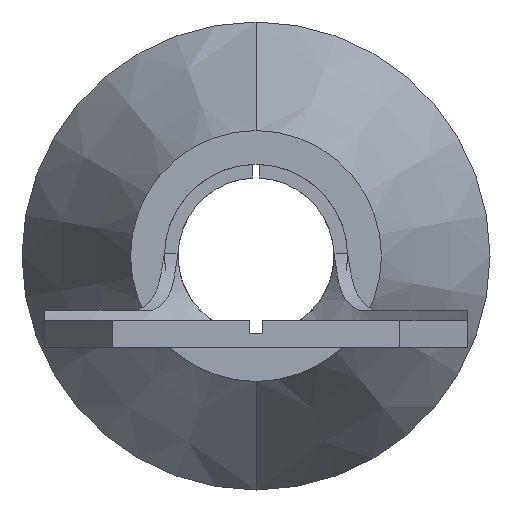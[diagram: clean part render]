
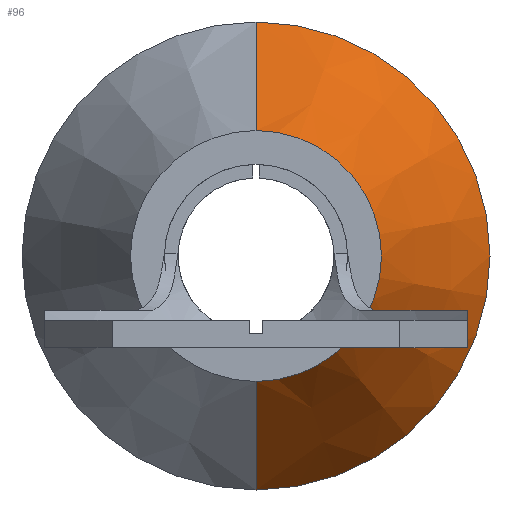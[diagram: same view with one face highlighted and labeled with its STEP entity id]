
A CAD part, front view. The second image highlights one B-rep face of the part: STEP entity #96.
In plain terms, the highlighted conical face has half-angle 27.3 degrees and reference radius 1.85 mm.
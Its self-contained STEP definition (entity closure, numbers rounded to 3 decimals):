
#31 = CARTESIAN_POINT ( 'NONE',  ( 0., 7.3, -3.45 ) ) ;
#91 = DIRECTION ( 'NONE',  ( 0., 1., 0. ) ) ;
#96 = ADVANCED_FACE ( 'NONE', ( #196 ), #1257, .T. ) ;
#101 = EDGE_CURVE ( 'NONE', #1501, #167, #1623, .T. ) ;
#167 = VERTEX_POINT ( 'NONE', #1622 ) ;
#185 = DIRECTION ( 'NONE',  ( 0., -1., 0. ) ) ;
#196 = FACE_OUTER_BOUND ( 'NONE', #1090, .T. ) ;
#283 = VERTEX_POINT ( 'NONE', #608 ) ;
#323 = DIRECTION ( 'NONE',  ( 0., -1., 0. ) ) ;
#361 = CARTESIAN_POINT ( 'NONE',  ( 0., 4.2, -1.85 ) ) ;
#387 = CARTESIAN_POINT ( 'NONE',  ( 0., 4.2, 0. ) ) ;
#464 = EDGE_CURVE ( 'NONE', #283, #1501, #510, .T. ) ;
#510 = CIRCLE ( 'NONE', #1344, 1.85 ) ;
#530 = DIRECTION ( 'NONE',  ( 0., 0., 1. ) ) ;
#583 = ORIENTED_EDGE ( 'NONE', *, *, #101, .F. ) ;
#587 = VECTOR ( 'NONE', #1062, 1000. ) ;
#608 = CARTESIAN_POINT ( 'NONE',  ( 0., 4.2, -1.85 ) ) ;
#633 = CARTESIAN_POINT ( 'NONE',  ( 0., 4.2, 0. ) ) ;
#680 = ORIENTED_EDGE ( 'NONE', *, *, #706, .T. ) ;
#706 = EDGE_CURVE ( 'NONE', #1708, #167, #855, .T. ) ;
#731 = AXIS2_PLACEMENT_3D ( 'NONE', #387, #91, #530 ) ;
#855 = CIRCLE ( 'NONE', #1479, 3.45 ) ;
#1027 = CARTESIAN_POINT ( 'NONE',  ( 0., 7.3, 0. ) ) ;
#1062 = DIRECTION ( 'NONE',  ( 0., 0.889, -0.459 ) ) ;
#1079 = DIRECTION ( 'NONE',  ( 0., 0.889, 0.459 ) ) ;
#1090 = EDGE_LOOP ( 'NONE', ( #1701, #1441, #680, #583 ) ) ;
#1157 = DIRECTION ( 'NONE',  ( 0., 0., -1. ) ) ;
#1257 = CONICAL_SURFACE ( 'NONE', #731, 1.85, 0.476 ) ;
#1271 = VECTOR ( 'NONE', #1079, 1000. ) ;
#1344 = AXIS2_PLACEMENT_3D ( 'NONE', #633, #323, #1435 ) ;
#1435 = DIRECTION ( 'NONE',  ( 0., 0., -1. ) ) ;
#1441 = ORIENTED_EDGE ( 'NONE', *, *, #1507, .T. ) ;
#1479 = AXIS2_PLACEMENT_3D ( 'NONE', #1027, #185, #1157 ) ;
#1501 = VERTEX_POINT ( 'NONE', #1578 ) ;
#1507 = EDGE_CURVE ( 'NONE', #283, #1708, #1574, .T. ) ;
#1574 = LINE ( 'NONE', #361, #587 ) ;
#1578 = CARTESIAN_POINT ( 'NONE',  ( 0., 4.2, 1.85 ) ) ;
#1622 = CARTESIAN_POINT ( 'NONE',  ( 0., 7.3, 3.45 ) ) ;
#1623 = LINE ( 'NONE', #1720, #1271 ) ;
#1701 = ORIENTED_EDGE ( 'NONE', *, *, #464, .F. ) ;
#1708 = VERTEX_POINT ( 'NONE', #31 ) ;
#1720 = CARTESIAN_POINT ( 'NONE',  ( 0., 4.2, 1.85 ) ) ;
